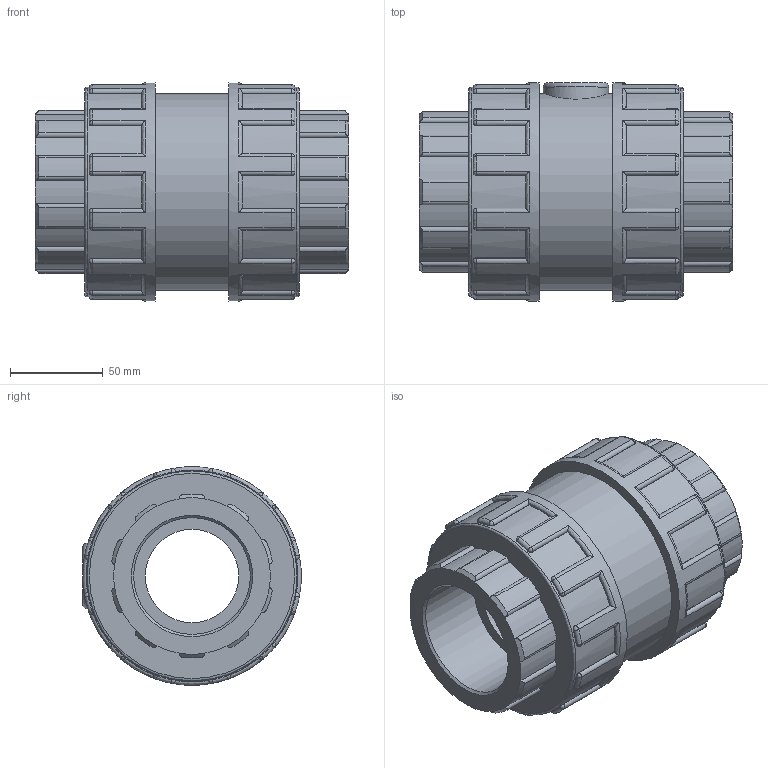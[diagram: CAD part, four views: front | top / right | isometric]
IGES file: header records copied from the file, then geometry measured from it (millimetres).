
Global section: file name: 116300063.ipt; native system: Autodesk Inventor 2015; preprocessor: unknown; author: KIM; date: 20171207.170609; units: millimetre
Bounding box: 169 x 118 x 118 mm (x, y, z)
Volume: 1042864.9 mm3; surface area: 109392.6 mm2
Topology: 1 solids, 1 shells, 411 faces, 1033 edges, 630 vertices
Faces by surface type: cylinder 182, plane 105, revolution 56, sphere 48, cone 20
Full cylindrical faces by diameter (mm): 35.4 x1, 106.2 x1, 113.28 x2, 118 x2
